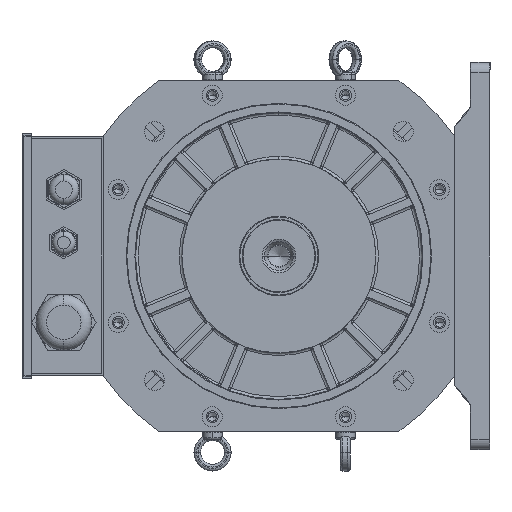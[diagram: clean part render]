
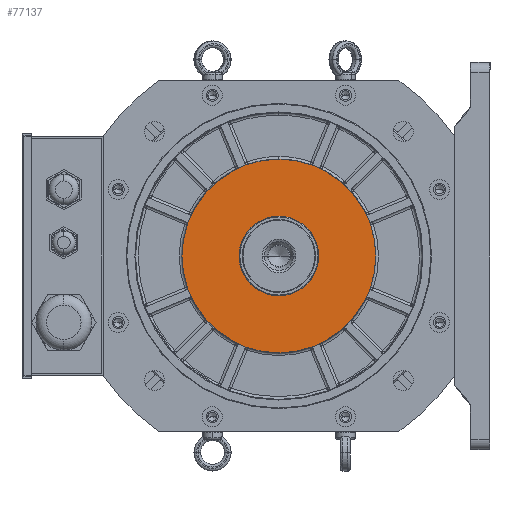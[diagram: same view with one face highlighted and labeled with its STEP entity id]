
A CAD part, left-side view. The second image highlights one B-rep face of the part: STEP entity #77137.
In plain terms, the highlighted planar face has unit normal (-1, 0, 0).
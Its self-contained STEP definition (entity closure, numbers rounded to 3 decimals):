
#1098 = AXIS2_PLACEMENT_3D ( 'NONE', #3621, #51552, #62747 ) ;
#2387 = VERTEX_POINT ( 'NONE', #15609 ) ;
#2955 = ORIENTED_EDGE ( 'NONE', *, *, #9236, .T. ) ;
#3621 = CARTESIAN_POINT ( 'NONE',  ( 6., -73., 0. ) ) ;
#5238 = CIRCLE ( 'NONE', #56376, 73. ) ;
#8608 = DIRECTION ( 'NONE',  ( -1., 0., 0. ) ) ;
#9236 = EDGE_CURVE ( 'NONE', #75974, #60476, #46578, .T. ) ;
#10817 = EDGE_CURVE ( 'NONE', #49985, #2387, #14646, .T. ) ;
#11561 = CARTESIAN_POINT ( 'NONE',  ( 6., 0., 73. ) ) ;
#11599 = DIRECTION ( 'NONE',  ( -1., 0., 0. ) ) ;
#14646 = CIRCLE ( 'NONE', #71864, 30. ) ;
#15609 = CARTESIAN_POINT ( 'NONE',  ( 6., 0., 30. ) ) ;
#22194 = DIRECTION ( 'NONE',  ( -1., 0., 0. ) ) ;
#23278 = FACE_OUTER_BOUND ( 'NONE', #28268, .T. ) ;
#26092 = DIRECTION ( 'NONE',  ( 0., 0., 1. ) ) ;
#26619 = CARTESIAN_POINT ( 'NONE',  ( 6., 0., 0. ) ) ;
#27058 = DIRECTION ( 'NONE',  ( -1., 0., 0. ) ) ;
#28268 = EDGE_LOOP ( 'NONE', ( #67358, #2955 ) ) ;
#31411 = CARTESIAN_POINT ( 'NONE',  ( 6., 0., -73. ) ) ;
#34169 = CARTESIAN_POINT ( 'NONE',  ( 6., 0., 0. ) ) ;
#35594 = CARTESIAN_POINT ( 'NONE',  ( 6., 0., 0. ) ) ;
#36782 = ORIENTED_EDGE ( 'NONE', *, *, #48569, .F. ) ;
#38661 = CIRCLE ( 'NONE', #57758, 30. ) ;
#39536 = CARTESIAN_POINT ( 'NONE',  ( 6., 0., 0. ) ) ;
#45229 = AXIS2_PLACEMENT_3D ( 'NONE', #26619, #8608, #26092 ) ;
#46578 = CIRCLE ( 'NONE', #45229, 73. ) ;
#47611 = ORIENTED_EDGE ( 'NONE', *, *, #10817, .F. ) ;
#48569 = EDGE_CURVE ( 'NONE', #2387, #49985, #38661, .T. ) ;
#49985 = VERTEX_POINT ( 'NONE', #57581 ) ;
#51552 = DIRECTION ( 'NONE',  ( -1., 0., 0. ) ) ;
#51893 = DIRECTION ( 'NONE',  ( 0., 0., 1. ) ) ;
#53282 = DIRECTION ( 'NONE',  ( 0., 0., 1. ) ) ;
#56376 = AXIS2_PLACEMENT_3D ( 'NONE', #34169, #22194, #51893 ) ;
#57581 = CARTESIAN_POINT ( 'NONE',  ( 6., 0., -30. ) ) ;
#57758 = AXIS2_PLACEMENT_3D ( 'NONE', #35594, #11599, #53282 ) ;
#60476 = VERTEX_POINT ( 'NONE', #11561 ) ;
#61485 = FACE_BOUND ( 'NONE', #62162, .T. ) ;
#62162 = EDGE_LOOP ( 'NONE', ( #36782, #47611 ) ) ;
#62747 = DIRECTION ( 'NONE',  ( 0., 0., 1. ) ) ;
#67358 = ORIENTED_EDGE ( 'NONE', *, *, #67637, .T. ) ;
#67637 = EDGE_CURVE ( 'NONE', #60476, #75974, #5238, .T. ) ;
#68693 = DIRECTION ( 'NONE',  ( 0., 0., 1. ) ) ;
#68957 = PLANE ( 'NONE',  #1098 ) ;
#71864 = AXIS2_PLACEMENT_3D ( 'NONE', #39536, #27058, #68693 ) ;
#75974 = VERTEX_POINT ( 'NONE', #31411 ) ;
#77137 = ADVANCED_FACE ( 'NONE', ( #23278, #61485 ), #68957, .T. ) ;
